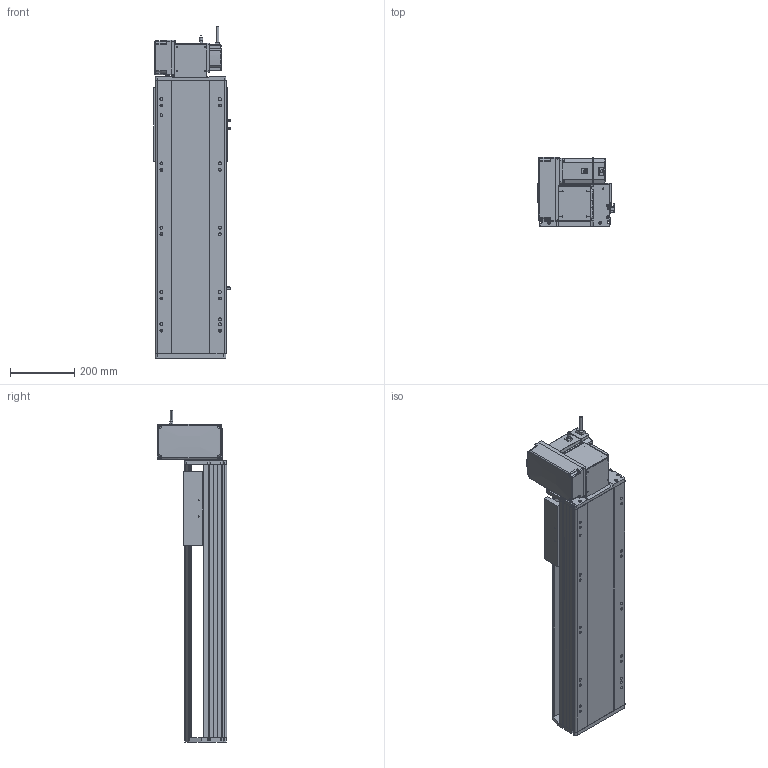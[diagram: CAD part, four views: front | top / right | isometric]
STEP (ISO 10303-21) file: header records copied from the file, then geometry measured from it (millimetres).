
FILE_DESCRIPTION (( 'STEP AP214' ), '1' );
FILE_NAME ('RTB22S-XX-500-LW-M75-C4.STEP', '2025-12-12T05:52:23', ( '' ), ( '' ), 'SwSTEP 2.0', 'SolidWorks 2018', '' );
FILE_SCHEMA (( 'AUTOMOTIVE_DESIGN' ));
Length unit declared in the file: millimetre
Products named in the file (14): RTB22S-GY-018P^RTB22S-LW-々湍釱蚾饜_RTB22S-XX-XX-LW-M75-C4; OMRON EE-SX672 传感器^RTB22S-XX-XX-LW-M75-C4; RTB22S-GY-007奻裔^RTB22S-XX-XX-LW-M75-C4; RTB22S-L-011菁釱^RTB22S-XX-XX-LW-M75-C4; RTB22S-GY-005P^RTB22S-LW-々湍釱蚾饜_RTB22S-XX-XX-LW-M75-C4; RTB22S-GY-017P^RTB22S-LW-々湍釱蚾饜_RTB22S-XX-XX-LW-M75-C4; 750W萇儂^RTB22S-XX-XX-LW-M75-C4; RTB22S-GY-001耜裔^RTB22S-XX-XX-LW-M75-C4; RTB22S-GY-008-M75--萇儂啣^RTB22S-LW-々湍釱蚾饜_RTB22S-XX-XX-LW-M75-C4; RTB22S-GY-014--々湍釱^RTB22S-LW-々湍釱蚾饜_RTB22S-XX-XX-LW-M75-C4; RTB22S-LW-々湍釱蚾饜^RTB22S-XX-XX-LW-M75-C4; RTB22S-XX-500-LW-M75-C4; RTB22S-L-004賑釱^RTB22S-XX-XX-LW-M75-C4; RTH22-GY-013外置感应片^RTB22S-XX-XX-LW-M75-C4
Assembly tree (16 placements, depth 3):
  RTB22S-XX-500-LW-M75-C4
    RTB22S-L-011菁釱^RTB22S-XX-XX-LW-M75-C4
    RTB22S-GY-001耜裔^RTB22S-XX-XX-LW-M75-C4
    750W萇儂^RTB22S-XX-XX-LW-M75-C4
    RTB22S-GY-007奻裔^RTB22S-XX-XX-LW-M75-C4
    RTB22S-L-004賑釱^RTB22S-XX-XX-LW-M75-C4
    RTH22-GY-013外置感应片^RTB22S-XX-XX-LW-M75-C4
    OMRON EE-SX672 传感器^RTB22S-XX-XX-LW-M75-C4  x3
    RTB22S-LW-々湍釱蚾饜^RTB22S-XX-XX-LW-M75-C4
      RTB22S-GY-014--々湍釱^RTB22S-LW-々湍釱蚾饜_RTB22S-XX-XX-LW-M75-C4
      RTB22S-GY-017P^RTB22S-LW-々湍釱蚾饜_RTB22S-XX-XX-LW-M75-C4  x2
      RTB22S-GY-005P^RTB22S-LW-々湍釱蚾饜_RTB22S-XX-XX-LW-M75-C4
      RTB22S-GY-008-M75--萇儂啣^RTB22S-LW-々湍釱蚾饜_RTB22S-XX-XX-LW-M75-C4
      RTB22S-GY-018P^RTB22S-LW-々湍釱蚾饜_RTB22S-XX-XX-LW-M75-C4
Bounding box: 238.5 x 215.5 x 1032.2 mm (x, y, z)
Volume: 15463022.1 mm3; surface area: 1634181.1 mm2
Topology: 15 solids, 15 shells, 1929 faces, 5236 edges, 3362 vertices
Faces by surface type: plane 909, cylinder 586, bspline 296, cone 126, sphere 8, torus 4
Entity records: 50794 total; most frequent: CARTESIAN_POINT 14728, ORIENTED_EDGE 7284, DIRECTION 6956, EDGE_CURVE 3642, AXIS2_PLACEMENT_3D 2434, VERTEX_POINT 2366, VECTOR 2088, LINE 2088
